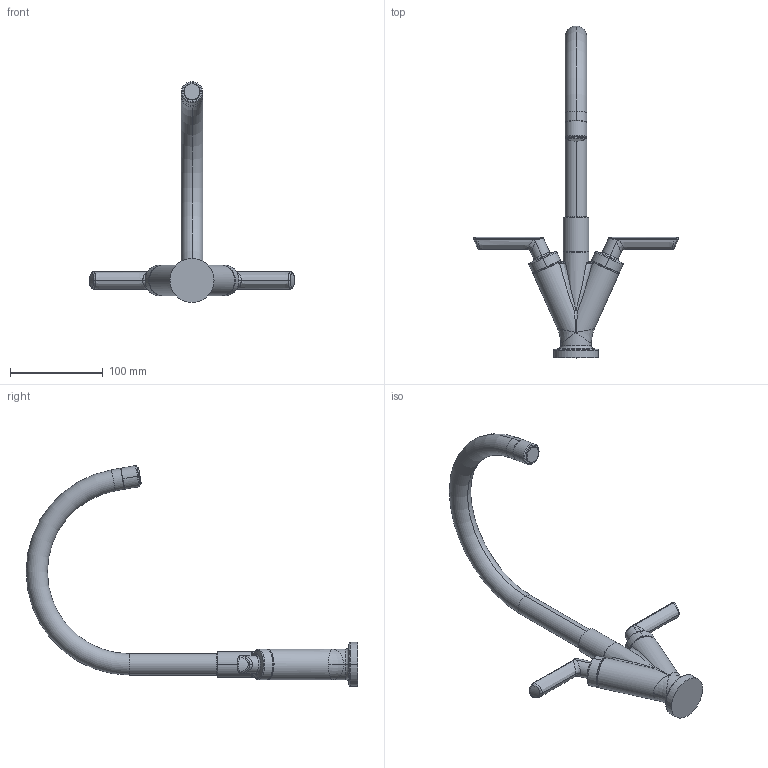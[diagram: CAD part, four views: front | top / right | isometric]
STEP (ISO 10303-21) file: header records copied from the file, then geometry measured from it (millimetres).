
FILE_DESCRIPTION((''),'2;1');
FILE_NAME('16000--00_SW0001','2026-10-07T11:22:14',('simi1'),(''),'CREO PARAMETRIC BY PTC INC, 2022244','CREO PARAMETRIC BY PTC INC, 2022244','');
FILE_SCHEMA(('CONFIG_CONTROL_DESIGN'));
Length unit declared in the file: millimetre
Products named in the file (1): 16000--00_SW0001
Bounding box: 221.8 x 357.73 x 238.17 mm (x, y, z)
Surface area: 75236.1 mm2 (no closed solid volume)
Topology: 0 solids, 13 shells, 149 faces, 480 edges, 344 vertices
Faces by surface type: cylinder 40, bspline 38, torus 28, plane 20, cone 17, extrusion 4, sphere 2
Entity records: 8699 total; most frequent: CARTESIAN_POINT 4792, ORIENTED_EDGE 782, DIRECTION 755, EDGE_CURVE 480, VERTEX_POINT 344, AXIS2_PLACEMENT_3D 314, CIRCLE 207, B_SPLINE_CURVE_WITH_KNOTS 154
